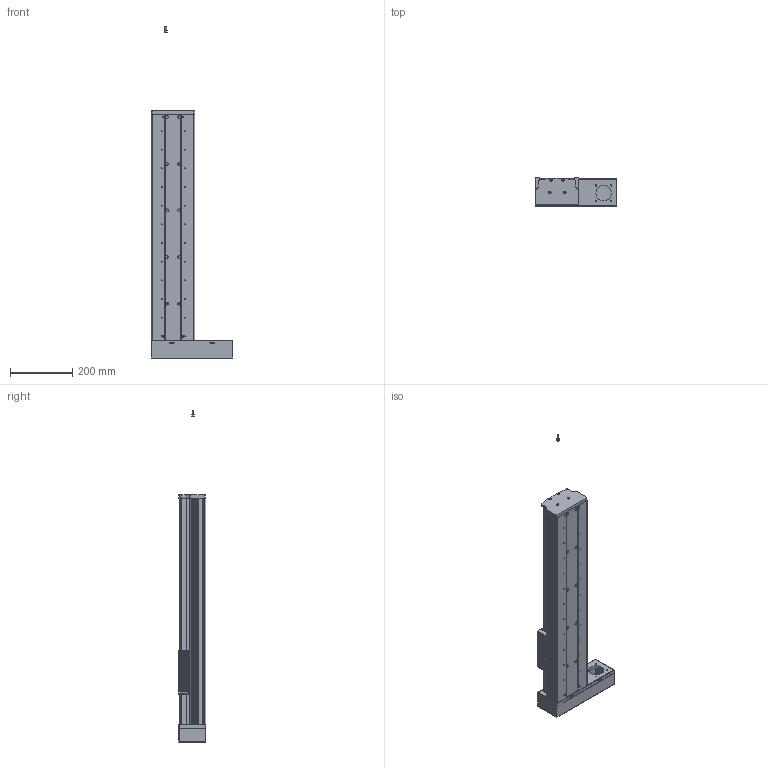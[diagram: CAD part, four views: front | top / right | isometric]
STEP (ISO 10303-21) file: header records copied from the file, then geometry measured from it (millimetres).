
FILE_DESCRIPTION (( 'STEP AP203' ), '1' );
FILE_NAME ('CF140衵殏500俴最.STEP', '2020-06-13T01:16:31', ( 'Micorosoft' ), ( 'Micorosoft' ), 'SwSTEP 2.0', 'SolidWorks 2016', '' );
FILE_SCHEMA (( 'CONFIG_CONTROL_DESIGN' ));
Length unit declared in the file: millimetre
Products named in the file (13): CF120B-20佪裝; 15賑輸; 140B酘殏殏萇儂啣; 15絳寢; 奻狟殏肮祭謫欶; CF140蹟譫釱; CF140衵殏500俴最; CF140賑雄啣; CF140盓傅釱; hexagon socket head cap screws gb_GB_FASTENER_SCREWS_HSHCS M5X16-N; CF140裔啣; CF140萇儂啣; 菁釱
Assembly tree (16 placements, depth 2):
  CF140衵殏500俴最
    菁釱
    15賑輸  x4
    15絳寢  x2
    CF140蹟譫釱
    CF140賑雄啣
    CF140盓傅釱
    hexagon socket head cap screws gb_GB_FASTENER_SCREWS_HSHCS M5X16-N
    CF140裔啣
    CF140萇儂啣
    CF120B-20佪裝
    140B酘殏殏萇儂啣
    奻狟殏肮祭謫欶
Bounding box: 262 x 90 x 1068.39 mm (x, y, z)
Volume: 3681578.2 mm3; surface area: 1396264.3 mm2
Topology: 16 solids, 16 shells, 1212 faces, 3337 edges, 2149 vertices
Faces by surface type: cylinder 649, plane 466, cone 95, torus 2
Entity records: 37247 total; most frequent: CARTESIAN_POINT 7264, DIRECTION 6153, ORIENTED_EDGE 5846, EDGE_CURVE 2923, AXIS2_PLACEMENT_3D 2278, VERTEX_POINT 1933, LINE 1597, VECTOR 1597
